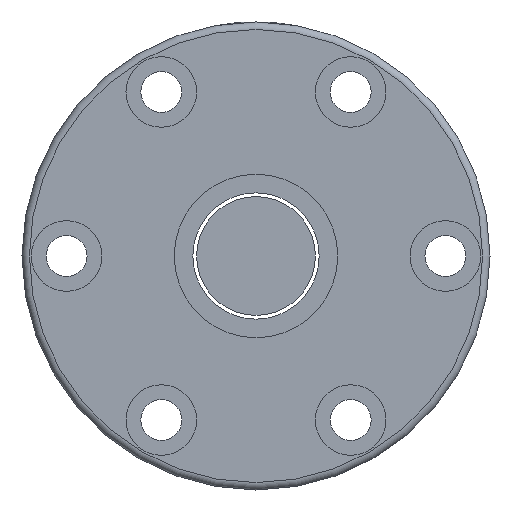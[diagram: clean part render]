
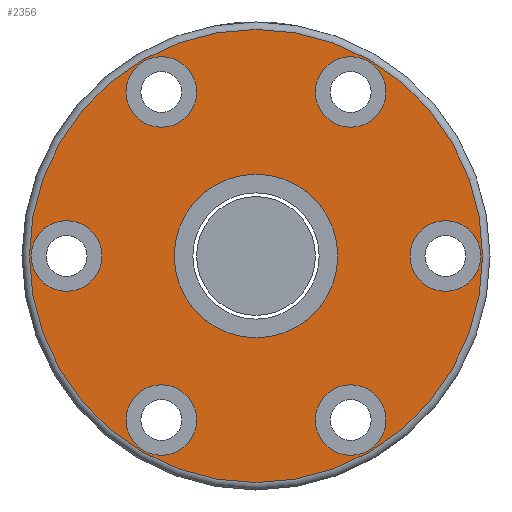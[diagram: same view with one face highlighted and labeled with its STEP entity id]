
A CAD part, left-side view. The second image highlights one B-rep face of the part: STEP entity #2356.
In plain terms, the highlighted planar face has unit normal (-1, 0, 0).
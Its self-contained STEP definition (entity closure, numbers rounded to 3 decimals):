
#1 = ORIENTED_EDGE ( 'NONE', *, *, #655, .T. ) ;
#51 = CIRCLE ( 'NONE', #1567, 4.75 ) ;
#57 = ORIENTED_EDGE ( 'NONE', *, *, #1636, .T. ) ;
#138 = EDGE_CURVE ( 'NONE', #317, #317, #2342, .T. ) ;
#142 = FACE_BOUND ( 'NONE', #1779, .T. ) ;
#146 = CARTESIAN_POINT ( 'NONE',  ( -58., -8., -22.08 ) ) ;
#156 = PLANE ( 'NONE',  #1273 ) ;
#170 = CARTESIAN_POINT ( 'NONE',  ( -58., -23.122, -4.112 ) ) ;
#177 = CIRCLE ( 'NONE', #542, 4.75 ) ;
#243 = EDGE_LOOP ( 'NONE', ( #2165 ) ) ;
#317 = VERTEX_POINT ( 'NONE', #1189 ) ;
#364 = DIRECTION ( 'NONE',  ( 0., 1., 0. ) ) ;
#371 = CARTESIAN_POINT ( 'NONE',  ( -58., 12.75, 22.08 ) ) ;
#378 = DIRECTION ( 'NONE',  ( 1., 0., 0. ) ) ;
#404 = DIRECTION ( 'NONE',  ( 1., 0., 0. ) ) ;
#457 = CIRCLE ( 'NONE', #2162, 4.75 ) ;
#540 = FACE_OUTER_BOUND ( 'NONE', #1951, .T. ) ;
#542 = AXIS2_PLACEMENT_3D ( 'NONE', #1691, #378, #1438 ) ;
#567 = DIRECTION ( 'NONE',  ( -1., 0., 0. ) ) ;
#616 = VERTEX_POINT ( 'NONE', #1940 ) ;
#627 = VERTEX_POINT ( 'NONE', #2631 ) ;
#651 = DIRECTION ( 'NONE',  ( -1., 0., 0. ) ) ;
#655 = EDGE_CURVE ( 'NONE', #2159, #2159, #2807, .T. ) ;
#694 = EDGE_CURVE ( 'NONE', #627, #627, #1421, .T. ) ;
#728 = EDGE_LOOP ( 'NONE', ( #1980 ) ) ;
#795 = DIRECTION ( 'NONE',  ( 1., 0., 0. ) ) ;
#801 = FACE_BOUND ( 'NONE', #2088, .T. ) ;
#805 = CARTESIAN_POINT ( 'NONE',  ( -58., 8., 22.08 ) ) ;
#825 = EDGE_CURVE ( 'NONE', #2829, #2829, #457, .T. ) ;
#929 = EDGE_CURVE ( 'NONE', #1245, #1245, #51, .T. ) ;
#1100 = AXIS2_PLACEMENT_3D ( 'NONE', #2681, #1783, #1572 ) ;
#1189 = CARTESIAN_POINT ( 'NONE',  ( -58., -11., 0. ) ) ;
#1245 = VERTEX_POINT ( 'NONE', #170 ) ;
#1273 = AXIS2_PLACEMENT_3D ( 'NONE', #1423, #567, #364 ) ;
#1327 = AXIS2_PLACEMENT_3D ( 'NONE', #1509, #2372, #1717 ) ;
#1328 = CARTESIAN_POINT ( 'NONE',  ( -58., 0., 0. ) ) ;
#1408 = ORIENTED_EDGE ( 'NONE', *, *, #825, .T. ) ;
#1421 = CIRCLE ( 'NONE', #2538, 4.75 ) ;
#1423 = CARTESIAN_POINT ( 'NONE',  ( -58., 11., 0. ) ) ;
#1427 = AXIS2_PLACEMENT_3D ( 'NONE', #371, #2763, #1657 ) ;
#1438 = DIRECTION ( 'NONE',  ( 0., 1., 0. ) ) ;
#1462 = EDGE_LOOP ( 'NONE', ( #1617 ) ) ;
#1484 = DIRECTION ( 'NONE',  ( 0., -0.5, -0.866 ) ) ;
#1493 = ORIENTED_EDGE ( 'NONE', *, *, #2232, .T. ) ;
#1508 = CARTESIAN_POINT ( 'NONE',  ( -58., 12.747, -22.082 ) ) ;
#1509 = CARTESIAN_POINT ( 'NONE',  ( -58., 25.497, -0.002 ) ) ;
#1567 = AXIS2_PLACEMENT_3D ( 'NONE', #2136, #795, #2802 ) ;
#1572 = DIRECTION ( 'NONE',  ( 0., -1., 0. ) ) ;
#1617 = ORIENTED_EDGE ( 'NONE', *, *, #138, .F. ) ;
#1636 = EDGE_CURVE ( 'NONE', #616, #616, #1743, .T. ) ;
#1657 = DIRECTION ( 'NONE',  ( 0., -1., 0. ) ) ;
#1691 = CARTESIAN_POINT ( 'NONE',  ( -58., -12.75, -22.08 ) ) ;
#1717 = DIRECTION ( 'NONE',  ( 0., -0.5, 0.866 ) ) ;
#1722 = CARTESIAN_POINT ( 'NONE',  ( -58., 23.122, 4.112 ) ) ;
#1743 = CIRCLE ( 'NONE', #1100, 30.5 ) ;
#1779 = EDGE_LOOP ( 'NONE', ( #1 ) ) ;
#1783 = DIRECTION ( 'NONE',  ( -1., 0., 0. ) ) ;
#1823 = EDGE_LOOP ( 'NONE', ( #2273 ) ) ;
#1877 = FACE_BOUND ( 'NONE', #2792, .T. ) ;
#1914 = CARTESIAN_POINT ( 'NONE',  ( -58., -12.747, 22.082 ) ) ;
#1940 = CARTESIAN_POINT ( 'NONE',  ( -58., -30.5, 0. ) ) ;
#1951 = EDGE_LOOP ( 'NONE', ( #57 ) ) ;
#1980 = ORIENTED_EDGE ( 'NONE', *, *, #694, .T. ) ;
#2025 = AXIS2_PLACEMENT_3D ( 'NONE', #1328, #651, #2195 ) ;
#2088 = EDGE_LOOP ( 'NONE', ( #1408 ) ) ;
#2095 = FACE_BOUND ( 'NONE', #728, .T. ) ;
#2136 = CARTESIAN_POINT ( 'NONE',  ( -58., -25.497, 0.002 ) ) ;
#2143 = FACE_BOUND ( 'NONE', #1823, .T. ) ;
#2159 = VERTEX_POINT ( 'NONE', #805 ) ;
#2162 = AXIS2_PLACEMENT_3D ( 'NONE', #1508, #404, #2385 ) ;
#2165 = ORIENTED_EDGE ( 'NONE', *, *, #929, .T. ) ;
#2195 = DIRECTION ( 'NONE',  ( 0., -1., 0. ) ) ;
#2232 = EDGE_CURVE ( 'NONE', #2589, #2589, #177, .T. ) ;
#2273 = ORIENTED_EDGE ( 'NONE', *, *, #2405, .T. ) ;
#2296 = CIRCLE ( 'NONE', #1327, 4.75 ) ;
#2342 = CIRCLE ( 'NONE', #2025, 11. ) ;
#2343 = FACE_BOUND ( 'NONE', #243, .T. ) ;
#2356 = ADVANCED_FACE ( 'NONE', ( #2343, #2095, #142, #2143, #801, #1877, #540, #2552 ), #156, .T. ) ;
#2364 = VERTEX_POINT ( 'NONE', #1722 ) ;
#2372 = DIRECTION ( 'NONE',  ( 1., 0., 0. ) ) ;
#2385 = DIRECTION ( 'NONE',  ( 0., 0.5, 0.866 ) ) ;
#2405 = EDGE_CURVE ( 'NONE', #2364, #2364, #2296, .T. ) ;
#2538 = AXIS2_PLACEMENT_3D ( 'NONE', #1914, #2583, #1484 ) ;
#2552 = FACE_BOUND ( 'NONE', #1462, .T. ) ;
#2583 = DIRECTION ( 'NONE',  ( 1., 0., 0. ) ) ;
#2589 = VERTEX_POINT ( 'NONE', #146 ) ;
#2631 = CARTESIAN_POINT ( 'NONE',  ( -58., -15.122, 17.968 ) ) ;
#2681 = CARTESIAN_POINT ( 'NONE',  ( -58., 0., 0. ) ) ;
#2763 = DIRECTION ( 'NONE',  ( 1., 0., 0. ) ) ;
#2792 = EDGE_LOOP ( 'NONE', ( #1493 ) ) ;
#2802 = DIRECTION ( 'NONE',  ( 0., 0.5, -0.866 ) ) ;
#2807 = CIRCLE ( 'NONE', #1427, 4.75 ) ;
#2817 = CARTESIAN_POINT ( 'NONE',  ( -58., 15.122, -17.968 ) ) ;
#2829 = VERTEX_POINT ( 'NONE', #2817 ) ;
